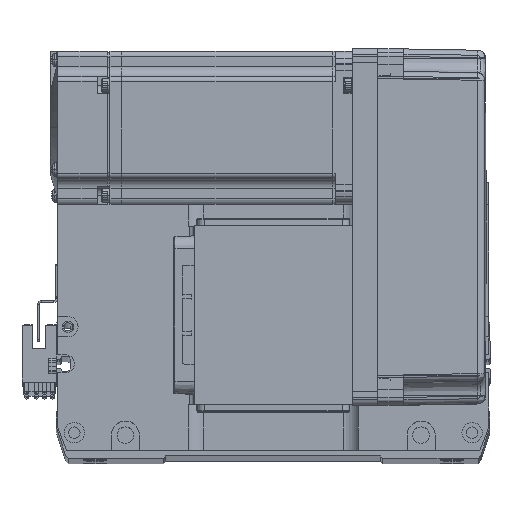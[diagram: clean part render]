
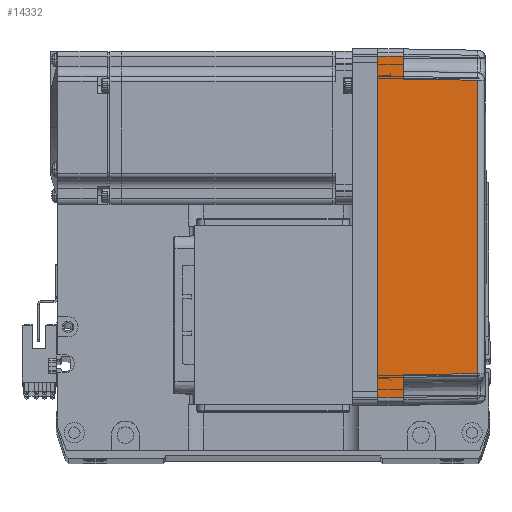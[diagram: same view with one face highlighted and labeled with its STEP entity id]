
A CAD part, top view. The second image highlights one B-rep face of the part: STEP entity #14332.
In plain terms, the highlighted planar face has unit normal (0.018, 0, 1) as drawn and (0, -1, 0.017) by its records, which use the part's own axes.
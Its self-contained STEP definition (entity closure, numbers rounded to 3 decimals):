
#224 = VERTEX_POINT ( 'NONE', #37266 ) ;
#1025 = CARTESIAN_POINT ( 'NONE',  ( 70., -36., 0. ) ) ;
#3075 = VERTEX_POINT ( 'NONE', #17697 ) ;
#3200 = DIRECTION ( 'NONE',  ( -1., 0., 0. ) ) ;
#4587 = EDGE_CURVE ( 'NONE', #18627, #224, #33743, .T. ) ;
#5965 = CARTESIAN_POINT ( 'NONE',  ( 57.495, -35.32, 38.985 ) ) ;
#6173 = ORIENTED_EDGE ( 'NONE', *, *, #40963, .T. ) ;
#6433 = VECTOR ( 'NONE', #36143, 1000. ) ;
#7573 = CARTESIAN_POINT ( 'NONE',  ( 67., -36., 0. ) ) ;
#7730 = EDGE_CURVE ( 'NONE', #11601, #39380, #25355, .T. ) ;
#8994 = EDGE_CURVE ( 'NONE', #224, #16739, #34505, .T. ) ;
#10910 = ORIENTED_EDGE ( 'NONE', *, *, #4587, .T. ) ;
#10950 = EDGE_CURVE ( 'NONE', #40442, #29101, #11790, .T. ) ;
#11129 = VECTOR ( 'NONE', #18134, 1000. ) ;
#11601 = VERTEX_POINT ( 'NONE', #7573 ) ;
#11790 = LINE ( 'NONE', #61074, #6433 ) ;
#12414 = EDGE_CURVE ( 'NONE', #3075, #16739, #33316, .T. ) ;
#12897 = CARTESIAN_POINT ( 'NONE',  ( 0., -36., 0. ) ) ;
#14332 = ADVANCED_FACE ( 'NONE', ( #54569 ), #31017, .T. ) ;
#14613 = CARTESIAN_POINT ( 'NONE',  ( 57.495, -35.32, 38.985 ) ) ;
#15798 = ORIENTED_EDGE ( 'NONE', *, *, #10950, .T. ) ;
#16645 = B_SPLINE_CURVE_WITH_KNOTS ( 'NONE', 3,
 ( #5965, #60206, #45557, #50328 ),
 .UNSPECIFIED., .F., .F.,
 ( 4, 4 ),
 ( 0., 1. ),
 .UNSPECIFIED. ) ;
#16739 = VERTEX_POINT ( 'NONE', #41350 ) ;
#17697 = CARTESIAN_POINT ( 'NONE',  ( -67., -36., 0. ) ) ;
#18134 = DIRECTION ( 'NONE',  ( -1., 0., 0. ) ) ;
#18627 = VERTEX_POINT ( 'NONE', #51450 ) ;
#18658 = VECTOR ( 'NONE', #27435, 1000. ) ;
#20947 = CARTESIAN_POINT ( 'NONE',  ( 66.826, -35.825, 10. ) ) ;
#25355 = LINE ( 'NONE', #38899, #45339 ) ;
#27435 = DIRECTION ( 'NONE',  ( 0.017, 0.017, 1. ) ) ;
#28969 = ORIENTED_EDGE ( 'NONE', *, *, #52470, .F. ) ;
#29075 = LINE ( 'NONE', #32984, #57456 ) ;
#29101 = VERTEX_POINT ( 'NONE', #14613 ) ;
#30673 = VECTOR ( 'NONE', #47232, 1000. ) ;
#31017 = PLANE ( 'NONE',  #50590 ) ;
#32984 = CARTESIAN_POINT ( 'NONE',  ( 70., -35.825, 10. ) ) ;
#33316 = LINE ( 'NONE', #46789, #18658 ) ;
#33743 = LINE ( 'NONE', #42473, #30673 ) ;
#34439 = DIRECTION ( 'NONE',  ( -0.017, 0.017, 1. ) ) ;
#34505 = LINE ( 'NONE', #62913, #41347 ) ;
#36143 = DIRECTION ( 'NONE',  ( -0.017, 0.017, 1. ) ) ;
#36965 = ORIENTED_EDGE ( 'NONE', *, *, #7730, .T. ) ;
#37266 = CARTESIAN_POINT ( 'NONE',  ( -58., -35.825, 10. ) ) ;
#38014 = ORIENTED_EDGE ( 'NONE', *, *, #38706, .T. ) ;
#38706 = EDGE_CURVE ( 'NONE', #29101, #18627, #16645, .T. ) ;
#38899 = CARTESIAN_POINT ( 'NONE',  ( 67., -36., 0. ) ) ;
#39380 = VERTEX_POINT ( 'NONE', #20947 ) ;
#40442 = VERTEX_POINT ( 'NONE', #60955 ) ;
#40963 = EDGE_CURVE ( 'NONE', #39380, #40442, #29075, .T. ) ;
#41347 = VECTOR ( 'NONE', #48718, 1000. ) ;
#41350 = CARTESIAN_POINT ( 'NONE',  ( -66.826, -35.825, 10. ) ) ;
#42125 = EDGE_LOOP ( 'NONE', ( #36965, #6173, #15798, #38014, #10910, #47626, #63078, #28969 ) ) ;
#42473 = CARTESIAN_POINT ( 'NONE',  ( -57.495, -35.32, 38.985 ) ) ;
#45339 = VECTOR ( 'NONE', #34439, 1000. ) ;
#45557 = CARTESIAN_POINT ( 'NONE',  ( -19.165, -35.316, 39.181 ) ) ;
#46789 = CARTESIAN_POINT ( 'NONE',  ( -66.959, -35.958, 2.39 ) ) ;
#47232 = DIRECTION ( 'NONE',  ( -0.017, -0.017, -1. ) ) ;
#47626 = ORIENTED_EDGE ( 'NONE', *, *, #8994, .T. ) ;
#48718 = DIRECTION ( 'NONE',  ( -1., 0., 0. ) ) ;
#50154 = DIRECTION ( 'NONE',  ( 0., -0.017, -1. ) ) ;
#50328 = CARTESIAN_POINT ( 'NONE',  ( -57.495, -35.32, 38.985 ) ) ;
#50365 = DIRECTION ( 'NONE',  ( 0., -1., 0.017 ) ) ;
#50590 = AXIS2_PLACEMENT_3D ( 'NONE', #1025, #50365, #50154 ) ;
#51161 = LINE ( 'NONE', #12897, #11129 ) ;
#51450 = CARTESIAN_POINT ( 'NONE',  ( -57.495, -35.32, 38.985 ) ) ;
#52470 = EDGE_CURVE ( 'NONE', #11601, #3075, #51161, .T. ) ;
#54569 = FACE_OUTER_BOUND ( 'NONE', #42125, .T. ) ;
#57456 = VECTOR ( 'NONE', #3200, 1000. ) ;
#60206 = CARTESIAN_POINT ( 'NONE',  ( 19.165, -35.316, 39.181 ) ) ;
#60955 = CARTESIAN_POINT ( 'NONE',  ( 58., -35.825, 10. ) ) ;
#61074 = CARTESIAN_POINT ( 'NONE',  ( 58., -35.825, 10. ) ) ;
#62913 = CARTESIAN_POINT ( 'NONE',  ( 70., -35.825, 10. ) ) ;
#63078 = ORIENTED_EDGE ( 'NONE', *, *, #12414, .F. ) ;
